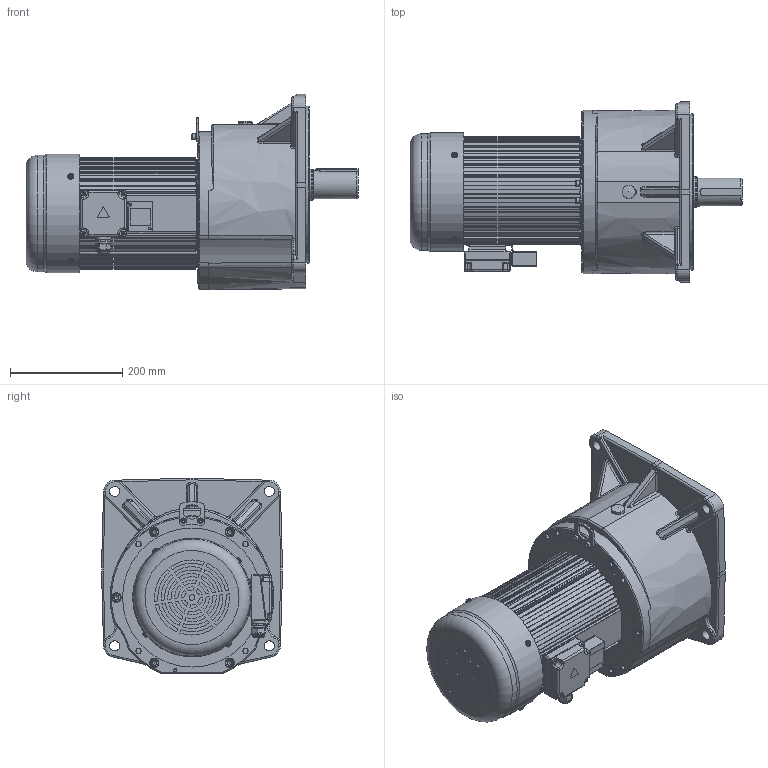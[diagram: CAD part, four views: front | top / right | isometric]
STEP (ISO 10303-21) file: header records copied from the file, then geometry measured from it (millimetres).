
FILE_DESCRIPTION(/* description */ (''),/* implementation_level */ '2;1');
FILE_NAME(/* name */ 'CV50-3700-3～200外形多速比带刹车.stp',/* time_stamp */ '2025-05-02T12:40:00+08:00',/* author */ (''),/* organization */ (''),/* preprocessor_version */ 'ST-DEVELOPER v18.102',/* originating_system */ 'SIEMENS PLM Software NX 2027',/* authorisation */ '');
FILE_SCHEMA (('AP203_CONFIGURATION_CONTROLLED_3D_DESIGN_OF_MECHANICAL_PARTS_AND_ASSEMBLIES_MIM_LF { 1 0 10303 403 2 1 2}'));
Length unit declared in the file: millimetre
Products named in the file (1): CV50-3700-3～200外形多速比带刹车_
objects
Bounding box: 592.5 x 322.99 x 349.12 mm (x, y, z)
Volume: 23585003.9 mm3; surface area: 988830.3 mm2
Topology: 26 solids, 26 shells, 3768 faces, 9663 edges, 6179 vertices
Faces by surface type: plane 2068, cylinder 1062, cone 319, torus 106, extrusion 96, bspline 68, sphere 33, revolution 16
Full cylindrical faces by diameter (mm): 1 x1, 1.8 x1, 3 x1, 3.3 x4, 3.5 x1, 4 x1, 4.2 x4, 4.336 x4, 4.5 x2, 4.826 x4, 5 x9, 5.795 x2, 5.89 x4, 6.4 x4, 7 x2, 8.5 x4, 9.732 x6, 10 x3, 11 x4, 12.5 x1, 13 x1, 16 x9, 17 x6, 18 x4, 19.5 x1, 20 x3, 21 x1, 22.5 x1, 23.027 x1, 23.2 x1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
Entity records: 124026 total; most frequent: CARTESIAN_POINT 35456, ORIENTED_EDGE 18668, DIRECTION 17344, EDGE_CURVE 9334, VERTEX_POINT 6100, AXIS2_PLACEMENT_3D 6043, VECTOR 5242, LINE 5146
